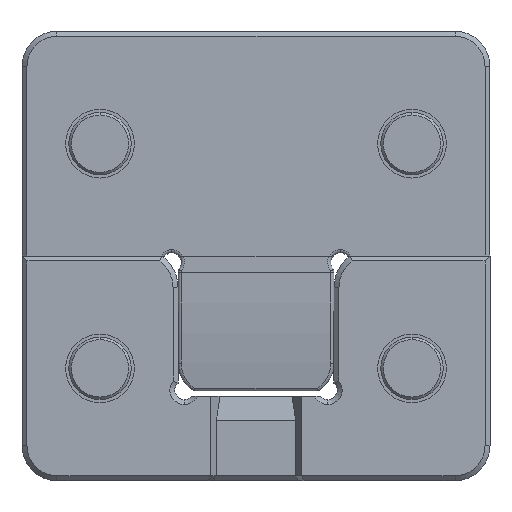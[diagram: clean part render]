
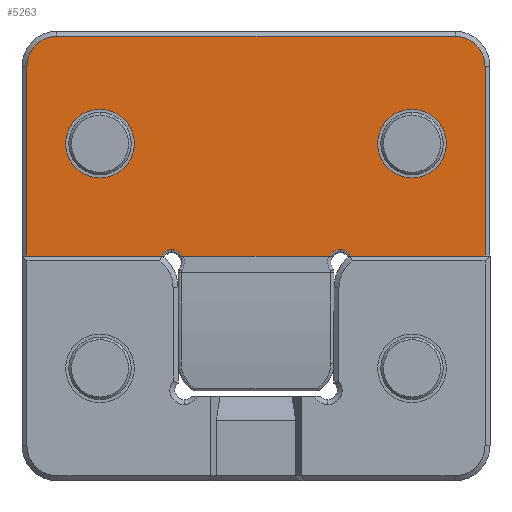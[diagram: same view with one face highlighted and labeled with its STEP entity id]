
A CAD part, front view. The second image highlights one B-rep face of the part: STEP entity #5263.
In plain terms, the highlighted planar face has unit normal (0, -1, 0).
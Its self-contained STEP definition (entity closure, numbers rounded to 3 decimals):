
#350 = ORIENTED_EDGE ( 'NONE', *, *, #3253, .T. ) ;
#351 = ORIENTED_EDGE ( 'NONE', *, *, #3348, .T. ) ;
#354 = ORIENTED_EDGE ( 'NONE', *, *, #3245, .T. ) ;
#372 = ORIENTED_EDGE ( 'NONE', *, *, #3347, .T. ) ;
#390 = ORIENTED_EDGE ( 'NONE', *, *, #3349, .T. ) ;
#418 = ORIENTED_EDGE ( 'NONE', *, *, #3353, .T. ) ;
#422 = ORIENTED_EDGE ( 'NONE', *, *, #3354, .T. ) ;
#433 = ORIENTED_EDGE ( 'NONE', *, *, #3259, .T. ) ;
#436 = ORIENTED_EDGE ( 'NONE', *, *, #3346, .T. ) ;
#443 = ORIENTED_EDGE ( 'NONE', *, *, #3331, .F. ) ;
#445 = ORIENTED_EDGE ( 'NONE', *, *, #3351, .T. ) ;
#447 = ORIENTED_EDGE ( 'NONE', *, *, #3337, .T. ) ;
#451 = ORIENTED_EDGE ( 'NONE', *, *, #3255, .T. ) ;
#454 = ORIENTED_EDGE ( 'NONE', *, *, #3350, .T. ) ;
#456 = ORIENTED_EDGE ( 'NONE', *, *, #3306, .F. ) ;
#461 = ORIENTED_EDGE ( 'NONE', *, *, #3332, .T. ) ;
#778 = PLANE ( 'NONE',  #6535 ) ;
#779 = CARTESIAN_POINT ( 'NONE',  ( -37.5, -19., 0. ) ) ;
#780 = DIRECTION ( 'NONE',  ( 0., 1., 0. ) ) ;
#781 = DIRECTION ( 'NONE',  ( 0., 0., 1. ) ) ;
#910 = CARTESIAN_POINT ( 'NONE',  ( 12.497, -19., -36. ) ) ;
#911 = DIRECTION ( 'NONE',  ( -1., 0., 0. ) ) ;
#912 = CARTESIAN_POINT ( 'NONE',  ( -13.507, -19., -37.01 ) ) ;
#914 = DIRECTION ( 'NONE',  ( 0., 1., 0. ) ) ;
#915 = DIRECTION ( 'NONE',  ( 0., 0., 1. ) ) ;
#937 = CARTESIAN_POINT ( 'NONE',  ( -36.7, -19., -36. ) ) ;
#938 = DIRECTION ( 'NONE',  ( 0., 0., -1. ) ) ;
#941 = CARTESIAN_POINT ( 'NONE',  ( 25., -19., -18. ) ) ;
#944 = CARTESIAN_POINT ( 'NONE',  ( -31.9, -19., -5.6 ) ) ;
#955 = CARTESIAN_POINT ( 'NONE',  ( 36.7, -19., -5.6 ) ) ;
#956 = DIRECTION ( 'NONE',  ( 0., 0., 1. ) ) ;
#957 = CARTESIAN_POINT ( 'NONE',  ( -25., -19., -18. ) ) ;
#958 = DIRECTION ( 'NONE',  ( 0., -1., 0. ) ) ;
#959 = DIRECTION ( 'NONE',  ( 0., 0., 1. ) ) ;
#960 = CARTESIAN_POINT ( 'NONE',  ( 13.507, -19., -37.01 ) ) ;
#961 = DIRECTION ( 'NONE',  ( 0., 1., 0. ) ) ;
#962 = DIRECTION ( 'NONE',  ( 0., 0., 1. ) ) ;
#964 = DIRECTION ( 'NONE',  ( 0., 1., 0. ) ) ;
#965 = DIRECTION ( 'NONE',  ( 0., 0., 1. ) ) ;
#966 = CARTESIAN_POINT ( 'NONE',  ( 31.9, -19., -5.6 ) ) ;
#1011 = EDGE_LOOP ( 'NONE', ( #351, #354 ) ) ;
#2548 = CARTESIAN_POINT ( 'NONE',  ( 25., -19., -23.5 ) ) ;
#2549 = CARTESIAN_POINT ( 'NONE',  ( 25., -19., -12.5 ) ) ;
#2556 = CARTESIAN_POINT ( 'NONE',  ( -25., -19., -23.5 ) ) ;
#2557 = CARTESIAN_POINT ( 'NONE',  ( -25., -19., -12.5 ) ) ;
#2570 = CARTESIAN_POINT ( 'NONE',  ( -13.507, -19., -34.99 ) ) ;
#3245 = EDGE_CURVE ( 'NONE', #4148, #4149, #7878, .T. ) ;
#3253 = EDGE_CURVE ( 'NONE', #4156, #4157, #7890, .T. ) ;
#3255 = EDGE_CURVE ( 'NONE', #6005, #4170, #7891, .T. ) ;
#3259 = EDGE_CURVE ( 'NONE', #6009, #6008, #7894, .T. ) ;
#3306 = EDGE_CURVE ( 'NONE', #6005, #6025, #7951, .T. ) ;
#3331 = EDGE_CURVE ( 'NONE', #6038, #6039, #7973, .T. ) ;
#3332 = EDGE_CURVE ( 'NONE', #4170, #6049, #7989, .T. ) ;
#3337 = EDGE_CURVE ( 'NONE', #6048, #6025, #7993, .T. ) ;
#3346 = EDGE_CURVE ( 'NONE', #6038, #6050, #8009, .T. ) ;
#3347 = EDGE_CURVE ( 'NONE', #6047, #6048, #8012, .T. ) ;
#3348 = EDGE_CURVE ( 'NONE', #4149, #4148, #8014, .T. ) ;
#3349 = EDGE_CURVE ( 'NONE', #4157, #4156, #8016, .T. ) ;
#3350 = EDGE_CURVE ( 'NONE', #6008, #6039, #8018, .T. ) ;
#3351 = EDGE_CURVE ( 'NONE', #6049, #6009, #7980, .T. ) ;
#3353 = EDGE_CURVE ( 'NONE', #6051, #6047, #8011, .T. ) ;
#3354 = EDGE_CURVE ( 'NONE', #6050, #6051, #8022, .T. ) ;
#3766 = CARTESIAN_POINT ( 'NONE',  ( -12.497, -19., -36. ) ) ;
#3768 = DIRECTION ( 'NONE',  ( -1., 0., 0. ) ) ;
#3981 = EDGE_LOOP ( 'NONE', ( #372, #447, #456, #451, #461, #445, #433, #454, #443, #436, #422, #418 ) ) ;
#3993 = DIRECTION ( 'NONE',  ( 0., 1., 0. ) ) ;
#3994 = DIRECTION ( 'NONE',  ( 0., 0., 1. ) ) ;
#3995 = CARTESIAN_POINT ( 'NONE',  ( -37.5, -19., -36. ) ) ;
#3996 = DIRECTION ( 'NONE',  ( 1., 0., 0. ) ) ;
#4000 = CARTESIAN_POINT ( 'NONE',  ( -31.9, -19., -0.8 ) ) ;
#4001 = DIRECTION ( 'NONE',  ( -1., 0., 0. ) ) ;
#4003 = DIRECTION ( 'NONE',  ( 0., -1., 0. ) ) ;
#4004 = DIRECTION ( 'NONE',  ( 0., 0., 1. ) ) ;
#4148 = VERTEX_POINT ( 'NONE', #2548 ) ;
#4149 = VERTEX_POINT ( 'NONE', #2549 ) ;
#4156 = VERTEX_POINT ( 'NONE', #2556 ) ;
#4157 = VERTEX_POINT ( 'NONE', #2557 ) ;
#4170 = VERTEX_POINT ( 'NONE', #2570 ) ;
#4801 = CARTESIAN_POINT ( 'NONE',  ( 25., -19., -18. ) ) ;
#4803 = DIRECTION ( 'NONE',  ( 0., 1., 0. ) ) ;
#4804 = DIRECTION ( 'NONE',  ( 0., 0., 1. ) ) ;
#4821 = CARTESIAN_POINT ( 'NONE',  ( -25., -19., -18. ) ) ;
#4823 = DIRECTION ( 'NONE',  ( 0., 1., 0. ) ) ;
#4824 = DIRECTION ( 'NONE',  ( 0., 0., 1. ) ) ;
#4826 = CARTESIAN_POINT ( 'NONE',  ( 13.507, -19., -37.01 ) ) ;
#4828 = CARTESIAN_POINT ( 'NONE',  ( -13.507, -19., -37.01 ) ) ;
#4829 = DIRECTION ( 'NONE',  ( 0., 1., 0. ) ) ;
#4830 = DIRECTION ( 'NONE',  ( 0., 0., 1. ) ) ;
#4843 = DIRECTION ( 'NONE',  ( 0., 1., 0. ) ) ;
#4844 = DIRECTION ( 'NONE',  ( 0., 0., 1. ) ) ;
#5263 = ADVANCED_FACE ( 'NONE', ( #6784, #6785, #6789 ), #778, .F. ) ;
#5730 = CARTESIAN_POINT ( 'NONE',  ( 13.507, -19., -34.99 ) ) ;
#5731 = CARTESIAN_POINT ( 'NONE',  ( 11.758, -19., -36. ) ) ;
#5746 = CARTESIAN_POINT ( 'NONE',  ( -36.7, -19., -36. ) ) ;
#5758 = CARTESIAN_POINT ( 'NONE',  ( 36.7, -19., -36. ) ) ;
#5759 = CARTESIAN_POINT ( 'NONE',  ( 15.256, -19., -36. ) ) ;
#5767 = CARTESIAN_POINT ( 'NONE',  ( -31.9, -19., -0.8 ) ) ;
#5768 = CARTESIAN_POINT ( 'NONE',  ( -36.7, -19., -5.6 ) ) ;
#5769 = CARTESIAN_POINT ( 'NONE',  ( -11.758, -19., -36. ) ) ;
#5770 = CARTESIAN_POINT ( 'NONE',  ( 36.7, -19., -5.6 ) ) ;
#5920 = CARTESIAN_POINT ( 'NONE',  ( 31.9, -19., -0.8 ) ) ;
#5960 = CARTESIAN_POINT ( 'NONE',  ( -15.256, -19., -36. ) ) ;
#6005 = VERTEX_POINT ( 'NONE', #5960 ) ;
#6008 = VERTEX_POINT ( 'NONE', #5730 ) ;
#6009 = VERTEX_POINT ( 'NONE', #5731 ) ;
#6025 = VERTEX_POINT ( 'NONE', #5746 ) ;
#6038 = VERTEX_POINT ( 'NONE', #5758 ) ;
#6039 = VERTEX_POINT ( 'NONE', #5759 ) ;
#6047 = VERTEX_POINT ( 'NONE', #5767 ) ;
#6048 = VERTEX_POINT ( 'NONE', #5768 ) ;
#6049 = VERTEX_POINT ( 'NONE', #5769 ) ;
#6050 = VERTEX_POINT ( 'NONE', #5770 ) ;
#6051 = VERTEX_POINT ( 'NONE', #5920 ) ;
#6348 = AXIS2_PLACEMENT_3D ( 'NONE', #4801, #4803, #4804 ) ;
#6351 = AXIS2_PLACEMENT_3D ( 'NONE', #4828, #4829, #4830 ) ;
#6352 = AXIS2_PLACEMENT_3D ( 'NONE', #4821, #4823, #4824 ) ;
#6354 = AXIS2_PLACEMENT_3D ( 'NONE', #4826, #4843, #4844 ) ;
#6397 = AXIS2_PLACEMENT_3D ( 'NONE', #912, #914, #915 ) ;
#6398 = AXIS2_PLACEMENT_3D ( 'NONE', #944, #958, #959 ) ;
#6399 = AXIS2_PLACEMENT_3D ( 'NONE', #957, #964, #965 ) ;
#6400 = AXIS2_PLACEMENT_3D ( 'NONE', #941, #961, #962 ) ;
#6401 = AXIS2_PLACEMENT_3D ( 'NONE', #960, #3993, #3994 ) ;
#6404 = AXIS2_PLACEMENT_3D ( 'NONE', #966, #4003, #4004 ) ;
#6535 = AXIS2_PLACEMENT_3D ( 'NONE', #779, #780, #781 ) ;
#6784 = FACE_BOUND ( 'NONE', #1011, .T. ) ;
#6785 = FACE_BOUND ( 'NONE', #7725, .T. ) ;
#6789 = FACE_OUTER_BOUND ( 'NONE', #3981, .T. ) ;
#7725 = EDGE_LOOP ( 'NONE', ( #390, #350 ) ) ;
#7878 = CIRCLE ( 'NONE', #6348, 5.5 ) ;
#7890 = CIRCLE ( 'NONE', #6352, 5.5 ) ;
#7891 = CIRCLE ( 'NONE', #6351, 2.02 ) ;
#7894 = CIRCLE ( 'NONE', #6354, 2.02 ) ;
#7951 = LINE ( 'NONE', #3766, #7952 ) ;
#7952 = VECTOR ( 'NONE', #3768, 1000. ) ;
#7971 = VECTOR ( 'NONE', #911, 1000. ) ;
#7973 = LINE ( 'NONE', #910, #7971 ) ;
#7980 = LINE ( 'NONE', #3995, #8015 ) ;
#7985 = VECTOR ( 'NONE', #938, 1000. ) ;
#7989 = CIRCLE ( 'NONE', #6397, 2.02 ) ;
#7993 = LINE ( 'NONE', #937, #7985 ) ;
#8009 = LINE ( 'NONE', #955, #8010 ) ;
#8010 = VECTOR ( 'NONE', #956, 1000. ) ;
#8011 = LINE ( 'NONE', #4000, #8017 ) ;
#8012 = CIRCLE ( 'NONE', #6398, 4.8 ) ;
#8014 = CIRCLE ( 'NONE', #6400, 5.5 ) ;
#8015 = VECTOR ( 'NONE', #3996, 1000. ) ;
#8016 = CIRCLE ( 'NONE', #6399, 5.5 ) ;
#8017 = VECTOR ( 'NONE', #4001, 1000. ) ;
#8018 = CIRCLE ( 'NONE', #6401, 2.02 ) ;
#8022 = CIRCLE ( 'NONE', #6404, 4.8 ) ;
